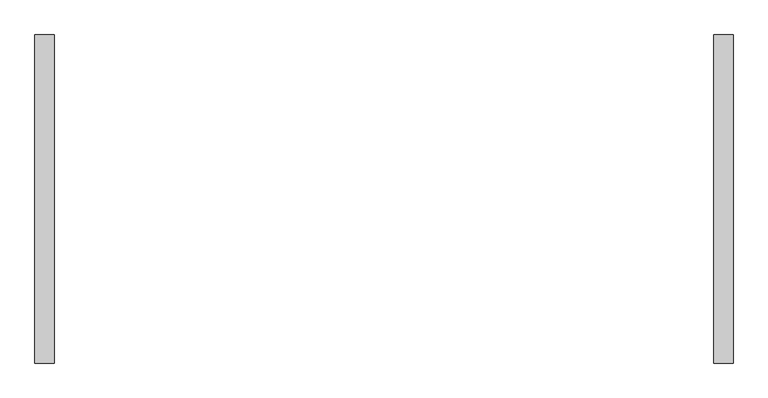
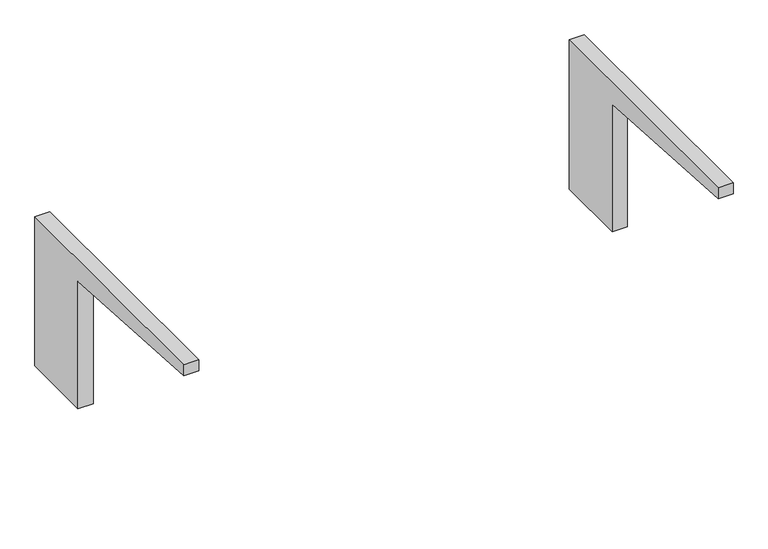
"""IFC4 building model written with IfcOpenShell, lengths in millimetres: furniture geometry, HermanMiller_CoStruc_C2140R_WorkSurfaceSupport_ComponentAdaptorReady : 14H x 24D x 48W."""

from ifc_helpers import new_model, si_unit, point, frame, frame_2d, origin, place, context, project, spatial, polyline, circle_curve, trimmed, segment, composite_curve, outline, extrude, source, transform, mapped, element, save


def furniture_13607bd2(model_context):
    return source(origin(), model_context, "Body", "SweptSolid", [
        extrude(outline(composite_curve([segment(polyline([(177.8, 882.65), (177.8, 533.4), (12.7, 533.4), (12.7, 831.85)]), True, "CONTINUOUS"), segment(trimmed(circle_curve(frame_2d((-388.143904, -2317.7524637)), 3175.0073252), [point((12.7, 831.85))], [point((-393.7, 857.25))], True, "CARTESIAN"), True, "CONTINUOUS"), segment(polyline([(-393.7, 857.25), (-393.7, 882.65), (177.8, 882.65)]), True, "CONTINUOUS")], self_intersect=False)), frame((574.675, 0.0, 0.0), z_axis=(1.0, 0.0, 0.0), x_axis=(0.0, 1.0, 0.0)), (0.0, 0.0, 1.0), 33.3375),
        extrude(outline(composite_curve([segment(polyline([(-393.7, 857.25), (-393.7, 882.65), (177.8, 882.65), (177.8, 533.4), (12.7, 533.4), (12.7, 831.85)]), True, "CONTINUOUS"), segment(trimmed(circle_curve(frame_2d((-388.143904, -2317.7524637)), 3175.0073252), [point((12.7, 831.85))], [point((-393.7, 857.25))], True, "CARTESIAN"), True, "CONTINUOUS")], self_intersect=False)), frame((-608.0125, 0.0, 0.0), z_axis=(1.0, 0.0, 0.0), x_axis=(0.0, 1.0, 0.0)), (0.0, 0.0, 1.0), 33.3375),
    ])


if __name__ == "__main__":
    model = new_model("IFC4")
    model_context = context("Model", 3, world=origin())
    ifc_project = project(units=[si_unit("LENGTHUNIT", "METRE", prefix="MILLI")], contexts=[model_context])
    site = spatial("IfcSite", under=ifc_project)
    building = spatial("IfcBuilding", under=site)
    placement = place(None, origin())
    furniture_shape = furniture_13607bd2(model_context)
    element("IfcFurniture", 1, ObjectType="HermanMiller_CoStruc_C2140R_WorkSurfaceSupport_ComponentAdaptorReady : 14H x 24D x 48W", at=placement, inside=building, context=model_context, shape_type="MappedRepresentation", body=[
        mapped(furniture_shape, transform((0.0, 0.0, 0.0), x_axis=(1.0, 0.0, 0.0), y_axis=(0.0, 1.0, 0.0), z_axis=(0.0, 0.0, 1.0))),
    ])
    save(model, "model.ifc")
